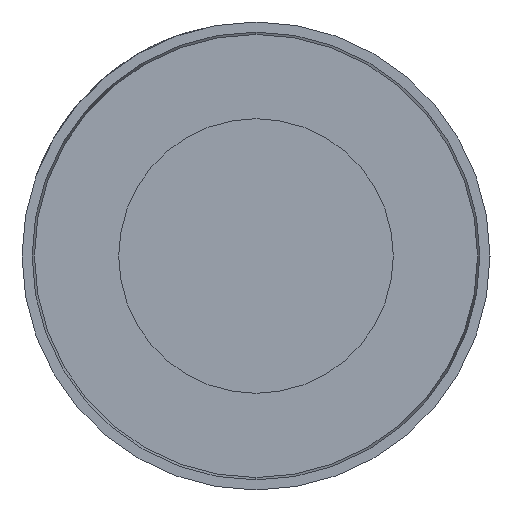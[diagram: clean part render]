
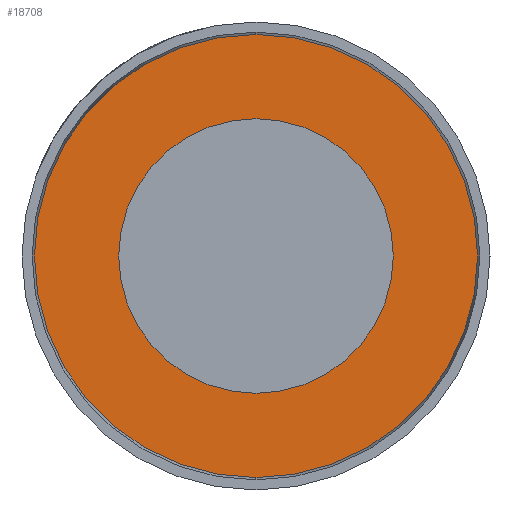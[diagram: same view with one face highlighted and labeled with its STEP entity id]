
A CAD part, left-side view. The second image highlights one B-rep face of the part: STEP entity #18708.
In plain terms, the highlighted planar face has unit normal (-1, 0, 0).
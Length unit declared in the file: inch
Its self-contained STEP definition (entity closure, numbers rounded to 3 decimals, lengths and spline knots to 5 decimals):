
#218 = CARTESIAN_POINT ( 'NONE',  ( 0., 0., 0. ) ) ;
#845 = DIRECTION ( 'NONE',  ( -1., 0., 0. ) ) ;
#1058 = DIRECTION ( 'NONE',  ( 0., 0., 1. ) ) ;
#2335 = EDGE_LOOP ( 'NONE', ( #16025, #8704 ) ) ;
#2609 = CIRCLE ( 'NONE', #10324, 0.1775 ) ;
#4190 = CARTESIAN_POINT ( 'NONE',  ( 0., 0., 0.11 ) ) ;
#4606 = VERTEX_POINT ( 'NONE', #4190 ) ;
#5610 = DIRECTION ( 'NONE',  ( -1., 0., 0. ) ) ;
#5781 = EDGE_CURVE ( 'NONE', #10065, #11948, #2609, .T. ) ;
#5866 = PLANE ( 'NONE',  #16643 ) ;
#6409 = CIRCLE ( 'NONE', #9841, 0.11 ) ;
#8297 = CIRCLE ( 'NONE', #13852, 0.11 ) ;
#8330 = CARTESIAN_POINT ( 'NONE',  ( 0., 0., 0. ) ) ;
#8704 = ORIENTED_EDGE ( 'NONE', *, *, #18136, .T. ) ;
#8797 = VERTEX_POINT ( 'NONE', #18130 ) ;
#9068 = DIRECTION ( 'NONE',  ( 0., 0., 1. ) ) ;
#9238 = AXIS2_PLACEMENT_3D ( 'NONE', #13671, #12031, #13585 ) ;
#9562 = EDGE_CURVE ( 'NONE', #8797, #4606, #6409, .T. ) ;
#9841 = AXIS2_PLACEMENT_3D ( 'NONE', #218, #13516, #9068 ) ;
#10065 = VERTEX_POINT ( 'NONE', #11514 ) ;
#10144 = DIRECTION ( 'NONE',  ( 0., 0., -1. ) ) ;
#10245 = DIRECTION ( 'NONE',  ( 1., 0., 0. ) ) ;
#10254 = EDGE_CURVE ( 'NONE', #4606, #8797, #8297, .T. ) ;
#10324 = AXIS2_PLACEMENT_3D ( 'NONE', #14333, #5610, #1058 ) ;
#10332 = FACE_BOUND ( 'NONE', #11863, .T. ) ;
#11514 = CARTESIAN_POINT ( 'NONE',  ( 0., 0., 0.1775 ) ) ;
#11863 = EDGE_LOOP ( 'NONE', ( #16452, #12959 ) ) ;
#11948 = VERTEX_POINT ( 'NONE', #14436 ) ;
#12031 = DIRECTION ( 'NONE',  ( -1., 0., 0. ) ) ;
#12774 = DIRECTION ( 'NONE',  ( 0., 0., 1. ) ) ;
#12959 = ORIENTED_EDGE ( 'NONE', *, *, #9562, .F. ) ;
#13516 = DIRECTION ( 'NONE',  ( -1., 0., 0. ) ) ;
#13585 = DIRECTION ( 'NONE',  ( 0., 0., 1. ) ) ;
#13671 = CARTESIAN_POINT ( 'NONE',  ( 0., 0., 0. ) ) ;
#13852 = AXIS2_PLACEMENT_3D ( 'NONE', #8330, #845, #12774 ) ;
#14333 = CARTESIAN_POINT ( 'NONE',  ( 0., 0., 0. ) ) ;
#14436 = CARTESIAN_POINT ( 'NONE',  ( 0., 0., -0.1775 ) ) ;
#16025 = ORIENTED_EDGE ( 'NONE', *, *, #5781, .T. ) ;
#16452 = ORIENTED_EDGE ( 'NONE', *, *, #10254, .F. ) ;
#16643 = AXIS2_PLACEMENT_3D ( 'NONE', #17544, #10245, #10144 ) ;
#17544 = CARTESIAN_POINT ( 'NONE',  ( 0., 0., 0. ) ) ;
#17730 = FACE_OUTER_BOUND ( 'NONE', #2335, .T. ) ;
#18130 = CARTESIAN_POINT ( 'NONE',  ( 0., 0., -0.11 ) ) ;
#18136 = EDGE_CURVE ( 'NONE', #11948, #10065, #18768, .T. ) ;
#18708 = ADVANCED_FACE ( 'NONE', ( #10332, #17730 ), #5866, .F. ) ;
#18768 = CIRCLE ( 'NONE', #9238, 0.1775 ) ;
